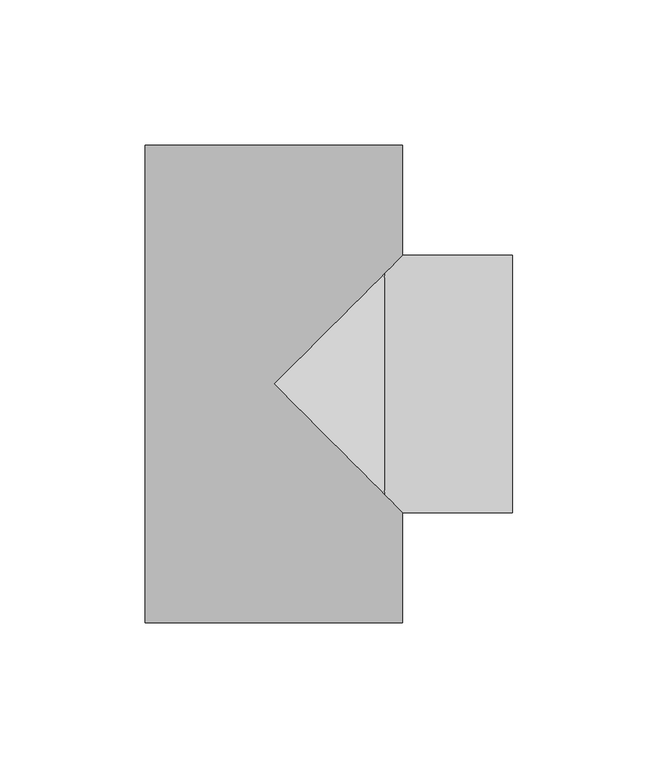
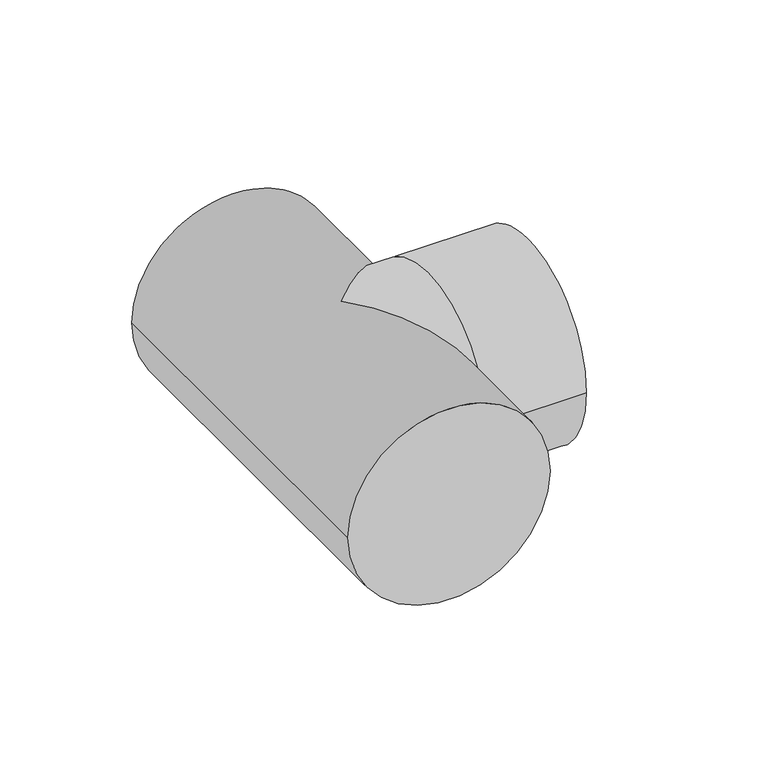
"""IFC4 building model written with IfcOpenShell, lengths in millimetres: pipe fitting geometry, 01101004 : Tés à 90º."""

import ifcopenshell
import ifcopenshell.guid

model = None  # the IFC model being written
_history = None  # IfcOwnerHistory: only IFC2X3 demands one
_inside = {}  # id of a spatial element -> (the spatial element, [elements in it])
_under = {}  # id of a project, library or spatial element -> (it, [spatial elements below it])
_declared = {}  # id of a project -> (the project, [libraries it declares])
_typed = {}  # id of a type object -> (the type object, [elements of that type])
_made_of = {}  # id of a material, layer set ... -> (it, [elements and type objects made of it])


def new_model(schema):
    """Start an empty IFC model of exactly this schema.

    Asked for "IFC4X3", IfcOpenShell would pick the latest addendum, in which some entities
    have other attributes; the version numbers below select the first issue.
    IFC2X3 requires an IfcOwnerHistory on every rooted entity: one is made here for all.
    """
    global model, _history
    if schema == "IFC4X3":
        model = ifcopenshell.file(schema_version=(4, 3, 0, 0))
    else:
        model = ifcopenshell.file(schema=schema)
    _inside.clear()
    _under.clear()
    _declared.clear()
    _typed.clear()
    _made_of.clear()
    _history = None
    if model.schema == "IFC2X3":
        org = make("IfcOrganization", Name="unknown")
        user = make(
            "IfcPersonAndOrganization",
            ThePerson=make("IfcPerson", FamilyName="unknown"),
            TheOrganization=org,
        )
        app = make(
            "IfcApplication",
            ApplicationDeveloper=org,
            Version="unknown",
            ApplicationFullName="unknown",
            ApplicationIdentifier="unknown",
        )
        _history = make(
            "IfcOwnerHistory",
            OwningUser=user,
            OwningApplication=app,
            ChangeAction="ADDED",
            CreationDate=0,
        )
    return model


def make(cls, **values):
    """One entity of the class cls with the attributes given. An attribute that is None is left unset."""
    return model.create_entity(
        cls, **{name: value for name, value in values.items() if value is not None}
    )


def rooted(cls, **values):
    """An entity with a GlobalId (a new one), such as an element, a storey or a relation."""
    return make(cls, GlobalId=ifcopenshell.guid.new(), OwnerHistory=_history, **values)


def si_unit(unit_type, name, prefix=None):
    """IfcSIUnit, for example si_unit("LENGTHUNIT", "METRE", prefix="MILLI")."""
    return make("IfcSIUnit", UnitType=unit_type, Prefix=prefix, Name=name)


def assignment(units):
    """IfcUnitAssignment: the units of a project."""
    return None if units is None else make("IfcUnitAssignment", Units=units)


def point(xyz):
    """IfcCartesianPoint."""
    return None if xyz is None else make("IfcCartesianPoint", Coordinates=xyz)


def direction(xyz):
    """IfcDirection."""
    return None if xyz is None else make("IfcDirection", DirectionRatios=xyz)


def frame(location, z_axis=None, x_axis=None):
    """IfcAxis2Placement3D, a coordinate frame: its origin and axes. An axis left out is left unset."""
    return make(
        "IfcAxis2Placement3D",
        Location=point(location),
        Axis=direction(z_axis),
        RefDirection=direction(x_axis),
    )


def origin():
    """The frame at (0, 0, 0) with its axes left unset."""
    return frame((0.0, 0.0, 0.0))


def place(relative_to, where):
    """IfcLocalPlacement: puts the frame where relative to a parent placement (None: the world)."""
    return make(
        "IfcLocalPlacement", PlacementRelTo=relative_to, RelativePlacement=where
    )


def context(
    kind, dimensions, precision=None, world=None, true_north=None, identifier=None
):
    """IfcGeometricRepresentationContext, for example the 3D "Model" context."""
    return make(
        "IfcGeometricRepresentationContext",
        ContextIdentifier=identifier,
        ContextType=kind,
        CoordinateSpaceDimension=dimensions,
        Precision=precision,
        WorldCoordinateSystem=world,
        TrueNorth=true_north,
    )


def project(units=None, contexts=None):
    """IfcProject with its units and contexts."""
    return rooted(
        "IfcProject",
        Name="project",
        RepresentationContexts=contexts,
        UnitsInContext=assignment(units),
    )


def spatial(cls, under=None, at=None, **own):
    """A site, building, storey or space (cls), placed at a placement, below another one or the project."""
    s = rooted(cls, ObjectPlacement=at, **own)
    if under is not None:
        _under.setdefault(under.id(), (under, []))[1].append(s)
    return s


def circle_curve(where, radius):
    """IfcCircle in the frame where."""
    return make("IfcCircle", Position=where, Radius=radius)


def ellipse_curve(where, semi_axis1, semi_axis2):
    """IfcEllipse in the frame where."""
    return make(
        "IfcEllipse", Position=where, SemiAxis1=semi_axis1, SemiAxis2=semi_axis2
    )


def shape(context_of_items, identifier, shape_type, items):
    """IfcShapeRepresentation: the items that make up one representation, for example the "Body"."""
    return make(
        "IfcShapeRepresentation",
        ContextOfItems=context_of_items,
        RepresentationIdentifier=identifier,
        RepresentationType=shape_type,
        Items=items,
    )


def source(mapping_origin, context_of_items, identifier, shape_type, items):
    """IfcRepresentationMap: a shape defined once, which mapped items show again and again."""
    return make(
        "IfcRepresentationMap",
        MappingOrigin=mapping_origin,
        MappedRepresentation=shape(context_of_items, identifier, shape_type, items),
    )


def transform(
    local_origin,
    x_axis=None,
    y_axis=None,
    z_axis=None,
    scale=None,
    scale2=None,
    scale3=None,
    uniform=True,
):
    """IfcCartesianTransformationOperator3D, or its non-uniform kind. x_axis, y_axis, z_axis: its Axis1, 2, 3."""
    if uniform:
        return make(
            "IfcCartesianTransformationOperator3D",
            Axis1=direction(x_axis),
            Axis2=direction(y_axis),
            LocalOrigin=point(local_origin),
            Scale=scale,
            Axis3=direction(z_axis),
        )
    return make(
        "IfcCartesianTransformationOperator3DnonUniform",
        Axis1=direction(x_axis),
        Axis2=direction(y_axis),
        LocalOrigin=point(local_origin),
        Scale=scale,
        Axis3=direction(z_axis),
        Scale2=scale2,
        Scale3=scale3,
    )


def mapped(mapping_source, mapping_target):
    """IfcMappedItem: shows the shape of a source again, moved by a transform."""
    return make(
        "IfcMappedItem", MappingSource=mapping_source, MappingTarget=mapping_target
    )


def made_of(thing, what):
    """Note that an element or type object is made of a material, layer set ...; save() writes the relation."""
    if what is not None:
        _made_of.setdefault(what.id(), (what, []))[1].append(thing)
    return thing


def element(
    cls,
    number,
    at=None,
    inside=None,
    cuts=None,
    type_object=None,
    material=None,
    context=None,
    identifier="Body",
    shape_type=None,
    held_by="IfcProductDefinitionShape",
    body=None,
    shapes=None,
    **own,
):
    """One element of the class cls, such as IfcWall. Its Tag is "e" and its number.

    at: its placement. inside: the storey or other place that contains it. cuts: it is an
    opening in that element (IfcRelVoidsElement). A single representation is given by context,
    identifier, shape_type and body (its items); several are given by shapes. held_by: the class
    of the entity that holds the representations. save() writes the other relations.
    """
    e = rooted(cls, Tag="e%d" % number, ObjectPlacement=at, **own)
    if body is not None:
        shapes = [shape(context, identifier, shape_type, body)]
    if shapes is not None:
        e.Representation = make(held_by, Representations=shapes)
    if inside is not None:
        _inside.setdefault(inside.id(), (inside, []))[1].append(e)
    if cuts is not None:
        rooted(
            "IfcRelVoidsElement", RelatingBuildingElement=cuts, RelatedOpeningElement=e
        )
    if type_object is not None:
        _typed.setdefault(type_object.id(), (type_object, []))[1].append(e)
    return made_of(e, material)


def aggregate(whole, parts):
    """IfcRelAggregates: a whole, such as a stair, and the parts it consists of."""
    return rooted("IfcRelAggregates", RelatingObject=whole, RelatedObjects=parts)


def save(model, path):
    """Write the relations noted so far, then the file.

    IfcRelAggregates (storeys below a building ...), IfcRelContainedInSpatialStructure (elements
    in a storey), IfcRelDefinesByType, IfcRelAssociatesMaterial and IfcRelDeclares: one each for
    every whole, place, type object, material and project.
    """
    for whole, parts in _under.values():
        aggregate(whole, parts)
    for where, things in _inside.values():
        rooted(
            "IfcRelContainedInSpatialStructure",
            RelatedElements=things,
            RelatingStructure=where,
        )
    for kind, things in _typed.values():
        rooted("IfcRelDefinesByType", RelatedObjects=things, RelatingType=kind)
    for what, things in _made_of.values():
        rooted("IfcRelAssociatesMaterial", RelatedObjects=things, RelatingMaterial=what)
    for by, libraries in _declared.values():
        rooted("IfcRelDeclares", RelatingContext=by, RelatedDefinitions=libraries)
    model.write(path)


def plane_surface(at):
    """IfcPlane: the flat surface through the origin of the frame at, square to its z axis."""
    return make("IfcPlane", Position=at)


def cylinder_surface(at, radius):
    """IfcCylindricalSurface: all points at the distance radius from the z axis of the frame at."""
    return make("IfcCylindricalSurface", Position=at, Radius=radius)


def advanced_brep(points, edges, surfaces, faces):
    """IfcAdvancedBrep: a solid bounded by faces that lie on surfaces and meet in shared edges.

    An edge is (start, end): straight between two places in points (the first is 0);
    or (start, end, curve); or (start, end, curve, False) where it runs against its curve.
    A face is (place in surfaces, loops), or (place, loops, False) where it looks against
    its surface's normal. A loop lists edges by number (the first is 1), with a minus sign
    where the edge is run from its end to its start. The first loop is the outer one.
    """
    corners = [point(p) for p in points]
    vertices = [make("IfcVertexPoint", VertexGeometry=c) for c in corners]
    made = []
    for start, end, *more in edges:
        made.append(
            make(
                "IfcEdgeCurve",
                EdgeStart=vertices[start],
                EdgeEnd=vertices[end],
                EdgeGeometry=more[0] if more else make("IfcPolyline", Points=[corners[start], corners[end]]),
                SameSense=more[1] if len(more) > 1 else True,
            )
        )
    hull = []
    for where, loops, *sense in faces:
        bounds = []
        for j, loop in enumerate(loops):
            ring = [make("IfcOrientedEdge", EdgeElement=made[abs(k) - 1], Orientation=k > 0) for k in loop]
            bounds.append(
                make(
                    "IfcFaceOuterBound" if j == 0 else "IfcFaceBound",
                    Bound=make("IfcEdgeLoop", EdgeList=ring),
                    Orientation=True,
                )
            )
        hull.append(make("IfcAdvancedFace", Bounds=bounds, FaceSurface=surfaces[where], SameSense=sense[0] if sense else True))
    return make("IfcAdvancedBrep", Outer=make("IfcClosedShell", CfsFaces=hull))


def pipe_fitting_478193a4(model_context):
    return source(origin(), model_context, "Body", "AdvancedBrep", [
        advanced_brep(
        [(-44.25, 82.0, 0.0), (44.25, 82.0, 0.0), (-44.25, -82.0, 0.0), (44.25, -82.0, 0.0), (44.25, -44.25, 0.0), (38.0, -38.0, 22.6729464), (0.0, 0.0, 44.25), (38.0, 38.0, 22.6729464), (44.25, 44.25, 0.0), (38.0, 38.0, -22.6729464), (0.0, 0.0, -44.25), (38.0, -38.0, -22.6729464), (82.0, 44.25, 0.0), (82.0, -44.25, 0.0)],
        [
            (0, 1, circle_curve(frame((0.0, 82.0, 0.0), z_axis=(0.0, 1.0, 0.0), x_axis=(1.0, 0.0, 0.0)), 44.25)),
            (1, 0, circle_curve(frame((0.0, 82.0, 0.0), z_axis=(0.0, 1.0, 0.0), x_axis=(1.0, 0.0, 0.0)), 44.25)),
            (2, 3, circle_curve(frame((0.0, -82.0, 0.0), z_axis=(0.0, -1.0, 0.0), x_axis=(1.0, 0.0, 0.0)), 44.25)),
            (3, 2, circle_curve(frame((0.0, -82.0, 0.0), z_axis=(0.0, -1.0, 0.0), x_axis=(1.0, 0.0, 0.0)), 44.25)),
            (0, 2),
            (3, 4),
            (4, 5, ellipse_curve(frame((0.0, 0.0, 0.0), z_axis=(-0.7071067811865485, -0.7071067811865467, 0.0), x_axis=(-0.7071067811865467, 0.7071067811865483, 0.0)), 62.5789501, 44.25)),
            (5, 6, ellipse_curve(frame((0.0, 0.0, 0.0), z_axis=(-0.7071067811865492, -0.7071067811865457, 0.0), x_axis=(-0.7071067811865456, 0.7071067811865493, 0.0)), 62.5789501, 44.25)),
            (6, 7, ellipse_curve(frame((0.0, 0.0, 0.0), z_axis=(-0.7071067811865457, 0.7071067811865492, 0.0), x_axis=(0.7071067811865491, 0.7071067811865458, 0.0)), 62.5789501, 44.25)),
            (7, 8, ellipse_curve(frame((0.0, 0.0, 0.0), z_axis=(-0.7071067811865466, 0.7071067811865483, 0.0), x_axis=(0.7071067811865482, 0.7071067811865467, 0.0)), 62.5789501, 44.25)),
            (8, 1),
            (8, 9, ellipse_curve(frame((0.0, 0.0, 0.0), z_axis=(-0.7071067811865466, 0.7071067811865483, 0.0), x_axis=(0.7071067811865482, 0.7071067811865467, 0.0)), 62.5789501, 44.25)),
            (9, 10, ellipse_curve(frame((0.0, 0.0, 0.0), z_axis=(-0.7071067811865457, 0.7071067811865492, 0.0), x_axis=(0.7071067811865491, 0.7071067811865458, 0.0)), 62.5789501, 44.25)),
            (10, 11, ellipse_curve(frame((0.0, 0.0, 0.0), z_axis=(-0.7071067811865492, -0.7071067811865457, 0.0), x_axis=(-0.7071067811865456, 0.7071067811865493, 0.0)), 62.5789501, 44.25)),
            (11, 4, ellipse_curve(frame((0.0, 0.0, 0.0), z_axis=(-0.7071067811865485, -0.7071067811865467, 0.0), x_axis=(-0.7071067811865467, 0.7071067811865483, 0.0)), 62.5789501, 44.25)),
            (12, 13, circle_curve(frame((82.0, 0.0, 0.0), z_axis=(1.0, 0.0, 0.0), x_axis=(0.0, -1.0, 0.0)), 44.25)),
            (13, 12, circle_curve(frame((82.0, 0.0, 0.0), z_axis=(1.0, 0.0, 0.0), x_axis=(0.0, -1.0, 0.0)), 44.25)),
            (5, 7, circle_curve(frame((38.0, 0.0, 0.0), z_axis=(-1.0, 0.0, 0.0), x_axis=(0.0, -1.0, 0.0)), 44.25)),
            (9, 11, circle_curve(frame((38.0, 0.0, 0.0), z_axis=(-1.0, 0.0, 0.0), x_axis=(0.0, -1.0, 0.0)), 44.25)),
            (12, 8),
            (4, 13),
        ],
        [
            plane_surface(frame((0.0, 82.0, 0.0), z_axis=(0.0, 1.0, 0.0), x_axis=(0.0, 0.0, 1.0))),
            plane_surface(frame((0.0, -82.0, 0.0), z_axis=(0.0, -1.0, 0.0), x_axis=(0.0, 0.0, 1.0))),
            cylinder_surface(frame((0.0, 82.0, 0.0), z_axis=(0.0, 1.0, 0.0), x_axis=(1.0, 0.0, 0.0)), 44.25),
            plane_surface(frame((82.0, 0.0, 0.0), z_axis=(1.0, 0.0, 0.0), x_axis=(0.0, 0.0, 1.0))),
            cylinder_surface(frame((38.0, 0.0, 0.0), z_axis=(1.0, 0.0, 0.0), x_axis=(0.0, -1.0, 0.0)), 44.25),
            cylinder_surface(frame((82.0, 0.0, 0.0), z_axis=(1.0, 0.0, 0.0), x_axis=(0.0, -1.0, 0.0)), 44.25),
        ],
        [
            (0, [[1, 2]]),
            (1, [[3, 4]]),
            (2, [[-1, 5, -4, 6, 7, 8, 9, 10, 11]]),
            (2, [[-2, -11, 12, 13, 14, 15, -6, -3, -5]]),
            (3, [[16, 17]]),
            (4, [[18, -9, -8]]),
            (4, [[19, -14, -13]]),
            (5, [[-16, 20, -10, -18, -7, 21]]),
            (5, [[-17, -21, -15, -19, -12, -20]]),
        ],
    ),
    ])


if __name__ == "__main__":
    model = new_model("IFC4")
    model_context = context("Model", 3, world=origin())
    ifc_project = project(units=[si_unit("LENGTHUNIT", "METRE", prefix="MILLI")], contexts=[model_context])
    site = spatial("IfcSite", under=ifc_project)
    building = spatial("IfcBuilding", under=site)
    placement = place(None, origin())
    pipe_fitting_shape = pipe_fitting_478193a4(model_context)
    element("IfcPipeFitting", 1, ObjectType="01101004 : Tés à 90º", at=placement, inside=building, context=model_context, shape_type="MappedRepresentation", body=[
        mapped(pipe_fitting_shape, transform((0.0, 0.0, 0.0), x_axis=(1.0, 0.0, 0.0), y_axis=(0.0, 1.0, 0.0), z_axis=(0.0, 0.0, 1.0))),
    ])
    save(model, "model.ifc")
